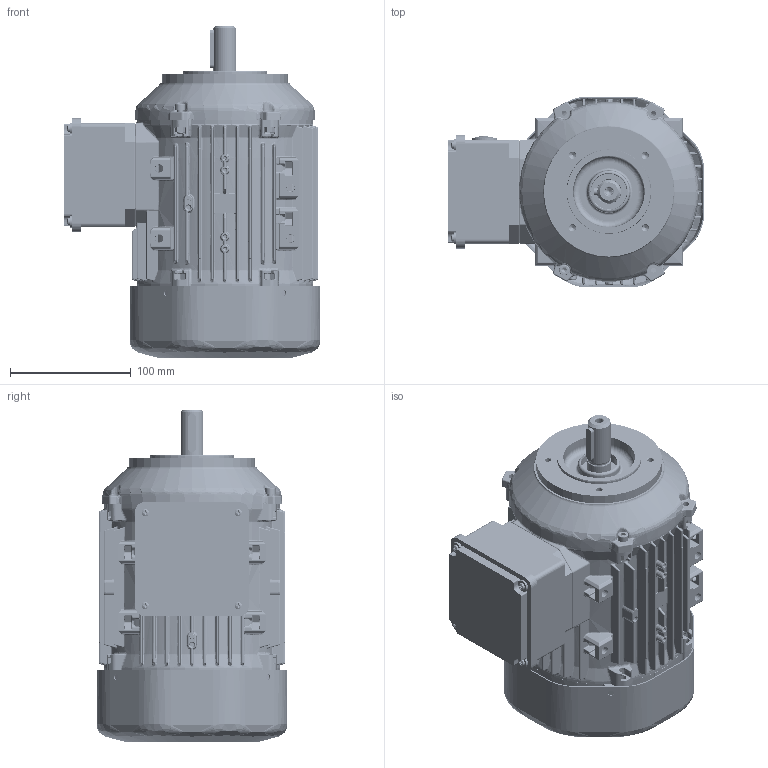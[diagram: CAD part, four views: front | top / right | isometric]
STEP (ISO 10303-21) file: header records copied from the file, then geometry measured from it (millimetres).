
FILE_DESCRIPTION(/* description */ (''),/* implementation_level */ '2;1');
FILE_NAME(/* name */ 'OUTLOOK VIEW QH80 FC B14 - REDUCED FT85 SPL.stp',/* time_stamp */ '2021-09-21T12:21:29+03:00',/* author */ (''),/* organization */ (''),/* preprocessor_version */ 'ST-DEVELOPER v16',/* originating_system */ 'SIEMENS PLM Software NX 11.0',/* authorisation */ '');
FILE_SCHEMA (('AUTOMOTIVE_DESIGN { 1 0 10303 214 3 1 1 1 }'));
Length unit declared in the file: millimetre
Products named in the file (1): 260652D491E0rw21
Bounding box: 212.5 x 158 x 275 mm (x, y, z)
Volume: 2437311.5 mm3; surface area: 984732.3 mm2
Topology: 46 solids, 50 shells, 10790 faces, 26216 edges, 14980 vertices
Faces by surface type: bspline 3506, cylinder 2952, plane 2177, sphere 797, torus 693, cone 647, extrusion 18
Full cylindrical faces by diameter (mm): 0.1 x2, 3.3 x5, 3.5 x4, 3.985 x3, 4 x4, 4.2 x1, 4.22 x3, 4.5 x4, 5 x9, 5.5 x4, 6 x1, 6.4 x1, 6.6 x1, 8 x1, 8.5 x1, 18.38 x2, 18.4 x1, 19 x3, 19.4 x2, 20 x6, 20.2 x2, 20.5 x1, 25 x2, 28.8 x8, 30 x3, 38.45 x4, 40.59 x8, 47 x6, 47.05 x1, 47.6 x3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
Entity records: 432469 total; most frequent: CARTESIAN_POINT 161781, ORIENTED_EDGE 49950, DIRECTION 44567, EDGE_CURVE 24975, AXIS2_PLACEMENT_3D 18662, VERTEX_POINT 14788, EDGE_LOOP 11757, ADVANCED_FACE 10786
